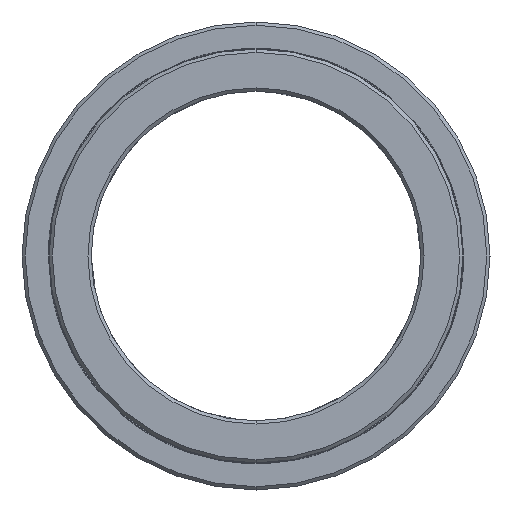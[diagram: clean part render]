
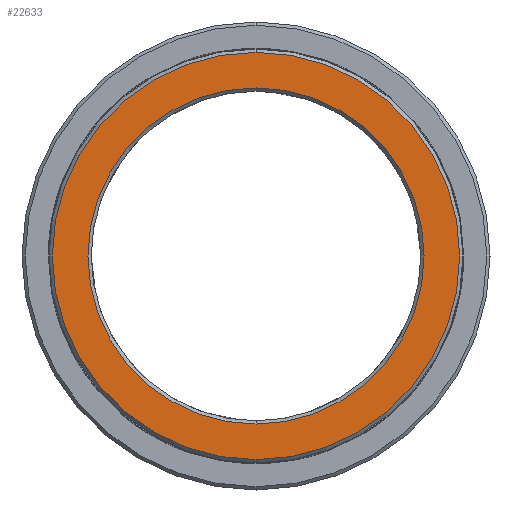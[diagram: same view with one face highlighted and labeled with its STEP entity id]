
A CAD part, front view. The second image highlights one B-rep face of the part: STEP entity #22633.
In plain terms, the highlighted planar face has unit normal (0, -1, 0).
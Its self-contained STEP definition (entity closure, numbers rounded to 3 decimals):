
#940 = ORIENTED_EDGE ( 'NONE', *, *, #26753, .T. ) ;
#941 = ORIENTED_EDGE ( 'NONE', *, *, #25396, .T. ) ;
#942 = ORIENTED_EDGE ( 'NONE', *, *, #26757, .F. ) ;
#3188 = AXIS2_PLACEMENT_3D ( 'NONE', #29231, #29230, #29229 ) ;
#3189 = CIRCLE ( 'NONE', #3188, 25.5 ) ;
#3298 = AXIS2_PLACEMENT_3D ( 'NONE', #12267, #12268, #12269 ) ;
#3698 = CARTESIAN_POINT ( 'NONE',  ( 0., 0., 0. ) ) ;
#3699 = DIRECTION ( 'NONE',  ( 0., 1., 0. ) ) ;
#3700 = DIRECTION ( 'NONE',  ( 0., 0., -1. ) ) ;
#3735 = CARTESIAN_POINT ( 'NONE',  ( 0., 0., 0. ) ) ;
#3736 = DIRECTION ( 'NONE',  ( 0., 1., 0. ) ) ;
#3737 = DIRECTION ( 'NONE',  ( 0., 0., 1. ) ) ;
#3950 = CARTESIAN_POINT ( 'NONE',  ( 0., 0., 0. ) ) ;
#3951 = DIRECTION ( 'NONE',  ( 0., 1., 0. ) ) ;
#3952 = DIRECTION ( 'NONE',  ( 0., 0., 1. ) ) ;
#7716 = CARTESIAN_POINT ( 'NONE',  ( 0., 0., -25.5 ) ) ;
#7718 = CARTESIAN_POINT ( 'NONE',  ( 0., 0., 30.9 ) ) ;
#7720 = CARTESIAN_POINT ( 'NONE',  ( 0., 0., -30.9 ) ) ;
#12011 = CIRCLE ( 'NONE', #12012, 25.5 ) ;
#12012 = AXIS2_PLACEMENT_3D ( 'NONE', #3698, #3699, #3700 ) ;
#12073 = CIRCLE ( 'NONE', #12075, 30.9 ) ;
#12075 = AXIS2_PLACEMENT_3D ( 'NONE', #3950, #3951, #3952 ) ;
#12177 = AXIS2_PLACEMENT_3D ( 'NONE', #3735, #3736, #3737 ) ;
#12178 = CIRCLE ( 'NONE', #12177, 30.9 ) ;
#12262 = FACE_BOUND ( 'NONE', #27149, .T. ) ;
#12263 = FACE_OUTER_BOUND ( 'NONE', #27177, .T. ) ;
#12266 = PLANE ( 'NONE',  #3298 ) ;
#12267 = CARTESIAN_POINT ( 'NONE',  ( 25.5, 0., 0. ) ) ;
#12268 = DIRECTION ( 'NONE',  ( 0., -1., 0. ) ) ;
#12269 = DIRECTION ( 'NONE',  ( 0., 0., -1. ) ) ;
#20320 = ORIENTED_EDGE ( 'NONE', *, *, #26773, .F. ) ;
#20498 = VERTEX_POINT ( 'NONE', #29508 ) ;
#22633 = ADVANCED_FACE ( 'NONE', ( #12262, #12263 ), #12266, .T. ) ;
#25396 = EDGE_CURVE ( 'NONE', #20498, #27574, #3189, .T. ) ;
#26753 = EDGE_CURVE ( 'NONE', #27574, #20498, #12011, .T. ) ;
#26757 = EDGE_CURVE ( 'NONE', #27575, #27576, #12178, .T. ) ;
#26773 = EDGE_CURVE ( 'NONE', #27576, #27575, #12073, .T. ) ;
#27149 = EDGE_LOOP ( 'NONE', ( #940, #941 ) ) ;
#27177 = EDGE_LOOP ( 'NONE', ( #942, #20320 ) ) ;
#27574 = VERTEX_POINT ( 'NONE', #7716 ) ;
#27575 = VERTEX_POINT ( 'NONE', #7718 ) ;
#27576 = VERTEX_POINT ( 'NONE', #7720 ) ;
#29229 = DIRECTION ( 'NONE',  ( 0., 0., -1. ) ) ;
#29230 = DIRECTION ( 'NONE',  ( 0., 1., 0. ) ) ;
#29231 = CARTESIAN_POINT ( 'NONE',  ( 0., 0., 0. ) ) ;
#29508 = CARTESIAN_POINT ( 'NONE',  ( 0., 0., 25.5 ) ) ;
